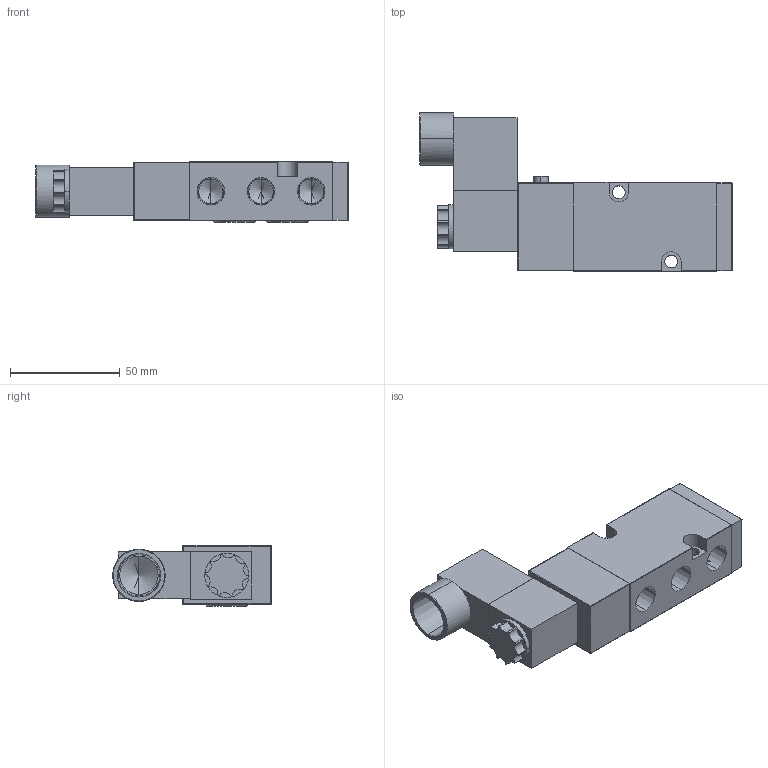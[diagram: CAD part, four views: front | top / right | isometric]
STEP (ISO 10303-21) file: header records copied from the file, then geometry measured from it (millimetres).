
FILE_DESCRIPTION (( 'STEP AP214' ), '1' );
FILE_NAME ('TVIS-X411-4N-XXX.STEP', '2025-05-08T15:44:08', ( '' ), ( '' ), 'SwSTEP 2.0', 'SolidWorks 2023', '' );
FILE_SCHEMA (( 'AUTOMOTIVE_DESIGN' ));
Length unit declared in the file: inch
Products named in the file (6): 18609.STEP; 18608.STEP; #4_RHCS_0.5Long.STEP; 2.4 x 14.8 MM O-RING.STEP; TVCS-X411-4N-XXX.STEP_0; TVIS-X411-4N-XXX
Assembly tree (8 placements, depth 3):
  TVIS-X411-4N-XXX
    TVCS-X411-4N-XXX.STEP_0
      18608.STEP
      18609.STEP
      #4_RHCS_0.5Long.STEP  x3
      2.4 x 14.8 MM O-RING.STEP  x2
Bounding box: 142.11 x 72.2 x 27.62 mm (x, y, z)
Volume: 137038.4 mm3; surface area: 33087.3 mm2
Topology: 7 solids, 7 shells, 260 faces, 626 edges, 387 vertices
Faces by surface type: plane 106, cylinder 102, cone 30, torus 8, bspline 8, sphere 6
Entity records: 6476 total; most frequent: CARTESIAN_POINT 1217, DIRECTION 1156, ORIENTED_EDGE 988, EDGE_CURVE 494, AXIS2_PLACEMENT_3D 456, VERTEX_POINT 315, EDGE_LOOP 247, LINE 244
